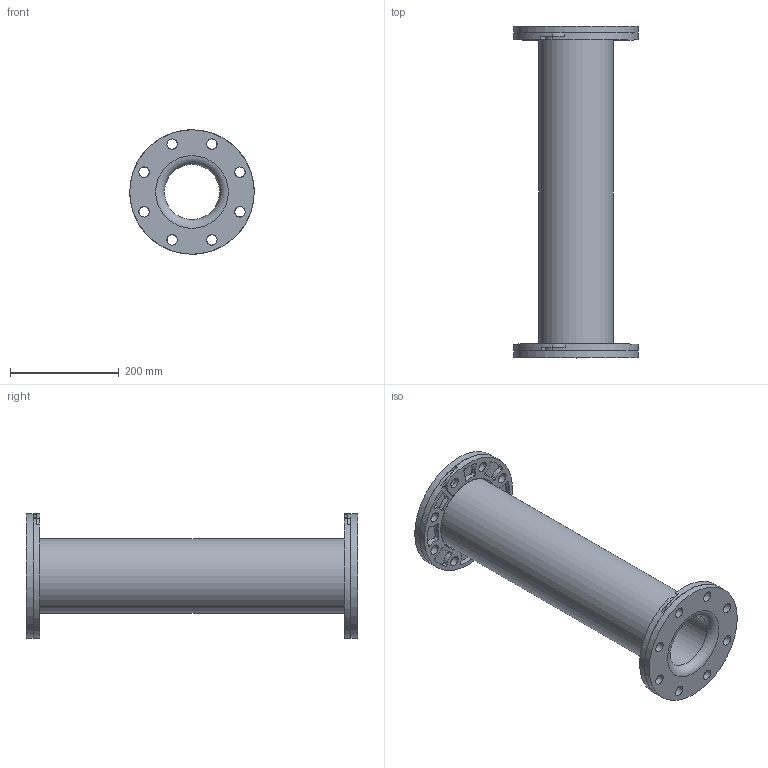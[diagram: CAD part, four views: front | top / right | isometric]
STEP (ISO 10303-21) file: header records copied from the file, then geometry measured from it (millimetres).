
FILE_DESCRIPTION(/* description */ (''),/* implementation_level */ '2;1');
FILE_NAME(/* name */ 'C:\001_Work\Designs\Mercer2014\MQInventor2014\RajR\150 Style\STP\STYLE 150 ASA150LB\150-4IDx24FF ASA150LB.stp',/* time_stamp */ '2016-05-20T18:45:12-04:00',/* author */ ('rramoutar'),/* organization */ ('Mason Industries Inc.'),/* preprocessor_version */ 'ST-DEVELOPER v15.6',/* originating_system */ 'Autodesk Inventor 2015',/* authorisation */ '');
FILE_SCHEMA (('CONFIG_CONTROL_DESIGN'));
Length unit declared in the file: inch
Products named in the file (1): 150-4IDx24FF
Bounding box: 228.6 x 609.6 x 228.6 mm (x, y, z)
Volume: 5151664.1 mm3; surface area: 741215 mm2
Topology: 3 solids, 3 shells, 258 faces, 700 edges, 466 vertices
Faces by surface type: cylinder 182, plane 64, torus 12
Full cylindrical faces by diameter (mm): 19.05 x36, 101.6 x1, 137.77 x1, 228.6 x4
Entity records: 8682 total; most frequent: DIRECTION 1564, CARTESIAN_POINT 1557, ORIENTED_EDGE 1300, AXIS2_PLACEMENT_3D 667, EDGE_CURVE 650, VERTEX_POINT 460, CIRCLE 408, EDGE_LOOP 390
